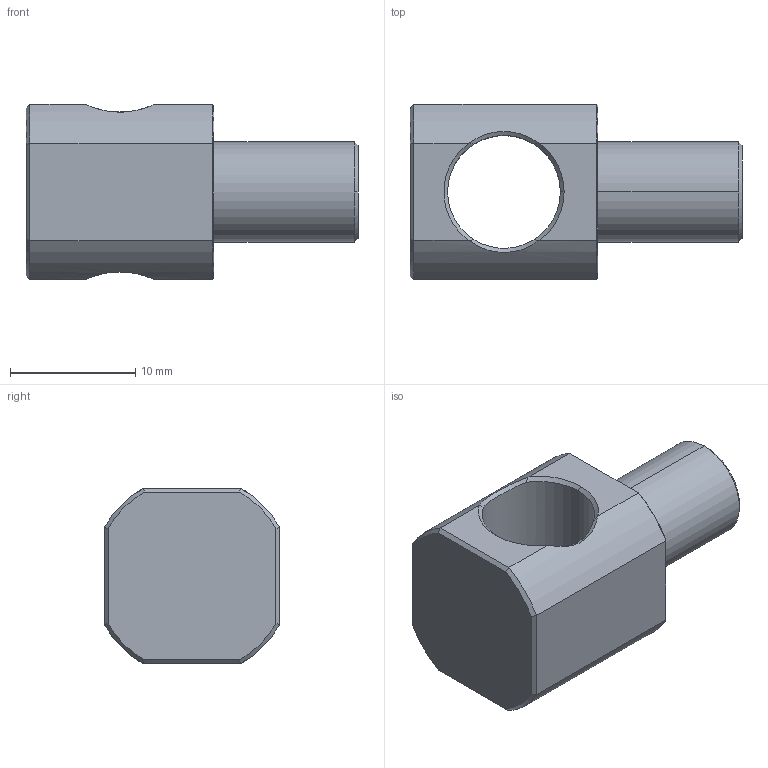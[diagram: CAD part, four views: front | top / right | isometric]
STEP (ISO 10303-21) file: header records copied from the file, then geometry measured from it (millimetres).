
FILE_DESCRIPTION (( 'STEP AP214' ), '1' );
FILE_NAME ('SMBR2-M10.STEP', '2019-11-07T01:51:55', ( '微软用户' ), ( '微软中国' ), 'SwSTEP 2.0', 'SolidWorks 2016', '' );
FILE_SCHEMA (( 'AUTOMOTIVE_DESIGN' ));
Length unit declared in the file: millimetre
Products named in the file (1): SMBR2-M10
Bounding box: 26.5 x 14 x 14 mm (x, y, z)
Volume: 2298.1 mm3; surface area: 1717 mm2
Topology: 1 solids, 1 shells, 49 faces, 122 edges, 75 vertices
Faces by surface type: plane 18, cone 17, cylinder 10, bspline 4
Entity records: 2827 total; most frequent: CARTESIAN_POINT 1681, ORIENTED_EDGE 244, DIRECTION 217, EDGE_CURVE 122, AXIS2_PLACEMENT_3D 89, VERTEX_POINT 75, EDGE_LOOP 51, FACE_OUTER_BOUND 49
